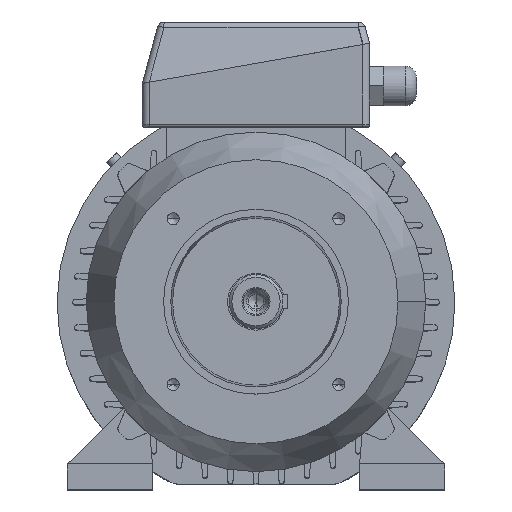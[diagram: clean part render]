
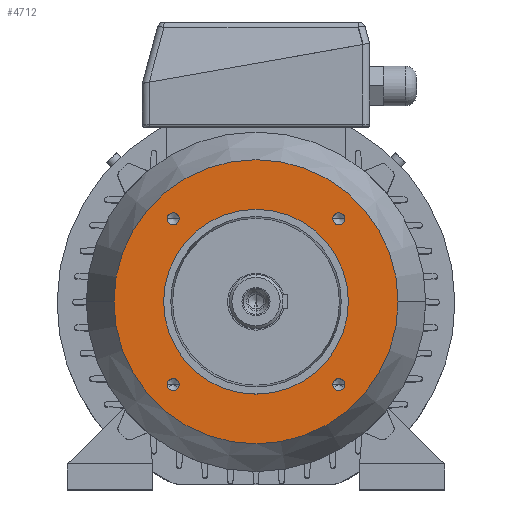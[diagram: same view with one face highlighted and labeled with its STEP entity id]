
A CAD part, top view. The second image highlights one B-rep face of the part: STEP entity #4712.
In plain terms, the highlighted planar face has unit normal (0, 0, 1).
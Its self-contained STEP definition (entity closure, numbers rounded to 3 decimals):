
#164 = VERTEX_POINT ( 'NONE', #10953 ) ;
#428 = EDGE_CURVE ( 'NONE', #1425, #164, #11161, .T. ) ;
#1425 = VERTEX_POINT ( 'NONE', #11643 ) ;
#1701 = CARTESIAN_POINT ( 'NONE',  ( -54.086, 58.336, 58. ) ) ;
#1873 = CIRCLE ( 'NONE', #1874, 4.25 ) ;
#1874 = AXIS2_PLACEMENT_3D ( 'NONE', #1875, #1876, #1877 ) ;
#1875 = CARTESIAN_POINT ( 'NONE',  ( -58.336, 58.336, 58. ) ) ;
#1876 = DIRECTION ( 'NONE',  ( 0., 0., 1. ) ) ;
#1877 = DIRECTION ( 'NONE',  ( 1., 0., 0. ) ) ;
#2156 = CARTESIAN_POINT ( 'NONE',  ( 65., 0., 58. ) ) ;
#2267 = CIRCLE ( 'NONE', #2268, 65. ) ;
#2268 = AXIS2_PLACEMENT_3D ( 'NONE', #2269, #2270, #2271 ) ;
#2269 = CARTESIAN_POINT ( 'NONE',  ( 0., 0., 58. ) ) ;
#2270 = DIRECTION ( 'NONE',  ( 0., 0., 1. ) ) ;
#2271 = DIRECTION ( 'NONE',  ( 1., 0., 0. ) ) ;
#2437 = CARTESIAN_POINT ( 'NONE',  ( 62.586, 58.336, 58. ) ) ;
#2476 = CIRCLE ( 'NONE', #2477, 65. ) ;
#2477 = AXIS2_PLACEMENT_3D ( 'NONE', #2478, #2479, #2485 ) ;
#2478 = CARTESIAN_POINT ( 'NONE',  ( 0., 0., 58. ) ) ;
#2479 = DIRECTION ( 'NONE',  ( 0., 0., 1. ) ) ;
#2485 = DIRECTION ( 'NONE',  ( 1., 0., 0. ) ) ;
#2554 = CIRCLE ( 'NONE', #2555, 4.25 ) ;
#2555 = AXIS2_PLACEMENT_3D ( 'NONE', #2556, #2557, #2558 ) ;
#2556 = CARTESIAN_POINT ( 'NONE',  ( 58.336, 58.336, 58. ) ) ;
#2557 = DIRECTION ( 'NONE',  ( 0., 0., 1. ) ) ;
#2558 = DIRECTION ( 'NONE',  ( 1., 0., 0. ) ) ;
#3655 = EDGE_CURVE ( 'NONE', #9502, #9878, #15085, .T. ) ;
#3809 = VERTEX_POINT ( 'NONE', #15152 ) ;
#3855 = ORIENTED_EDGE ( 'NONE', *, *, #3655, .F. ) ;
#4055 = VERTEX_POINT ( 'NONE', #15240 ) ;
#4080 = CARTESIAN_POINT ( 'NONE',  ( 54.086, 58.336, 58. ) ) ;
#4314 = EDGE_CURVE ( 'NONE', #4055, #3809, #15431, .T. ) ;
#4434 = EDGE_LOOP ( 'NONE', ( #3855, #10472 ) ) ;
#4712 = ADVANCED_FACE ( 'NONE', ( #16243, #16244, #16245, #16246, #16247, #16248 ), #16249, .F. ) ;
#4740 = CARTESIAN_POINT ( 'NONE',  ( 62.586, -58.336, 58. ) ) ;
#4741 = CIRCLE ( 'NONE', #4742, 100. ) ;
#4742 = AXIS2_PLACEMENT_3D ( 'NONE', #4743, #4744, #4745 ) ;
#4743 = CARTESIAN_POINT ( 'NONE',  ( 0., 0., 58. ) ) ;
#4744 = DIRECTION ( 'NONE',  ( 0., 0., 1. ) ) ;
#4745 = DIRECTION ( 'NONE',  ( 1., 0., 0. ) ) ;
#4872 = CIRCLE ( 'NONE', #4873, 4.25 ) ;
#4873 = AXIS2_PLACEMENT_3D ( 'NONE', #4874, #4875, #4876 ) ;
#4874 = CARTESIAN_POINT ( 'NONE',  ( 58.336, -58.336, 58. ) ) ;
#4875 = DIRECTION ( 'NONE',  ( 0., 0., 1. ) ) ;
#4876 = DIRECTION ( 'NONE',  ( 1., 0., 0. ) ) ;
#5330 = CARTESIAN_POINT ( 'NONE',  ( 54.086, -58.336, 58. ) ) ;
#6355 = CIRCLE ( 'NONE', #6356, 4.25 ) ;
#6356 = AXIS2_PLACEMENT_3D ( 'NONE', #6357, #6358, #6359 ) ;
#6357 = CARTESIAN_POINT ( 'NONE',  ( -58.336, 58.336, 58. ) ) ;
#6358 = DIRECTION ( 'NONE',  ( 0., 0., 1. ) ) ;
#6359 = DIRECTION ( 'NONE',  ( 1., 0., 0. ) ) ;
#7663 = CIRCLE ( 'NONE', #7664, 4.25 ) ;
#7664 = AXIS2_PLACEMENT_3D ( 'NONE', #7665, #7666, #7667 ) ;
#7665 = CARTESIAN_POINT ( 'NONE',  ( -58.336, -58.336, 58. ) ) ;
#7666 = DIRECTION ( 'NONE',  ( 0., 0., 1. ) ) ;
#7667 = DIRECTION ( 'NONE',  ( 1., 0., 0. ) ) ;
#8299 = VERTEX_POINT ( 'NONE', #1701 ) ;
#8556 = EDGE_CURVE ( 'NONE', #15778, #8299, #1873, .T. ) ;
#8693 = CIRCLE ( 'NONE', #8694, 4.25 ) ;
#8694 = AXIS2_PLACEMENT_3D ( 'NONE', #8695, #8696, #8697 ) ;
#8695 = CARTESIAN_POINT ( 'NONE',  ( 58.336, -58.336, 58. ) ) ;
#8696 = DIRECTION ( 'NONE',  ( 0., 0., 1. ) ) ;
#8697 = DIRECTION ( 'NONE',  ( 1., 0., 0. ) ) ;
#8867 = CARTESIAN_POINT ( 'NONE',  ( -65., 0., 58. ) ) ;
#8982 = VERTEX_POINT ( 'NONE', #2156 ) ;
#9234 = EDGE_CURVE ( 'NONE', #8982, #14918, #2267, .T. ) ;
#9286 = CARTESIAN_POINT ( 'NONE',  ( -62.586, 58.336, 58. ) ) ;
#9318 = EDGE_LOOP ( 'NONE', ( #14838, #13919 ) ) ;
#9502 = VERTEX_POINT ( 'NONE', #2437 ) ;
#9561 = EDGE_CURVE ( 'NONE', #14918, #8982, #2476, .T. ) ;
#9604 = EDGE_CURVE ( 'NONE', #9878, #9502, #2554, .T. ) ;
#9664 = ORIENTED_EDGE ( 'NONE', *, *, #9561, .F. ) ;
#9803 = ORIENTED_EDGE ( 'NONE', *, *, #9234, .F. ) ;
#9878 = VERTEX_POINT ( 'NONE', #4080 ) ;
#9936 = EDGE_LOOP ( 'NONE', ( #9803, #9664 ) ) ;
#10005 = ORIENTED_EDGE ( 'NONE', *, *, #4314, .T. ) ;
#10135 = VERTEX_POINT ( 'NONE', #4740 ) ;
#10136 = EDGE_CURVE ( 'NONE', #3809, #4055, #4741, .T. ) ;
#10192 = EDGE_CURVE ( 'NONE', #10424, #10135, #4872, .T. ) ;
#10228 = ORIENTED_EDGE ( 'NONE', *, *, #10136, .T. ) ;
#10413 = EDGE_LOOP ( 'NONE', ( #10228, #10005 ) ) ;
#10424 = VERTEX_POINT ( 'NONE', #5330 ) ;
#10472 = ORIENTED_EDGE ( 'NONE', *, *, #9604, .F. ) ;
#10735 = ORIENTED_EDGE ( 'NONE', *, *, #8556, .F. ) ;
#10866 = EDGE_CURVE ( 'NONE', #8299, #15778, #6355, .T. ) ;
#10953 = CARTESIAN_POINT ( 'NONE',  ( -54.086, -58.336, 58. ) ) ;
#11161 = CIRCLE ( 'NONE', #11162, 4.25 ) ;
#11162 = AXIS2_PLACEMENT_3D ( 'NONE', #11163, #11164, #11165 ) ;
#11163 = CARTESIAN_POINT ( 'NONE',  ( -58.336, -58.336, 58. ) ) ;
#11164 = DIRECTION ( 'NONE',  ( 0., 0., 1. ) ) ;
#11165 = DIRECTION ( 'NONE',  ( 1., 0., 0. ) ) ;
#11231 = ORIENTED_EDGE ( 'NONE', *, *, #10866, .F. ) ;
#11643 = CARTESIAN_POINT ( 'NONE',  ( -62.586, -58.336, 58. ) ) ;
#11814 = EDGE_LOOP ( 'NONE', ( #11231, #10735 ) ) ;
#12078 = ORIENTED_EDGE ( 'NONE', *, *, #428, .F. ) ;
#12651 = EDGE_CURVE ( 'NONE', #164, #1425, #7663, .T. ) ;
#13073 = ORIENTED_EDGE ( 'NONE', *, *, #12651, .F. ) ;
#13649 = EDGE_LOOP ( 'NONE', ( #13073, #12078 ) ) ;
#13919 = ORIENTED_EDGE ( 'NONE', *, *, #10192, .F. ) ;
#14504 = EDGE_CURVE ( 'NONE', #10135, #10424, #8693, .T. ) ;
#14838 = ORIENTED_EDGE ( 'NONE', *, *, #14504, .F. ) ;
#14918 = VERTEX_POINT ( 'NONE', #8867 ) ;
#15085 = CIRCLE ( 'NONE', #15086, 4.25 ) ;
#15086 = AXIS2_PLACEMENT_3D ( 'NONE', #15087, #15088, #15089 ) ;
#15087 = CARTESIAN_POINT ( 'NONE',  ( 58.336, 58.336, 58. ) ) ;
#15088 = DIRECTION ( 'NONE',  ( 0., 0., 1. ) ) ;
#15089 = DIRECTION ( 'NONE',  ( 1., 0., 0. ) ) ;
#15152 = CARTESIAN_POINT ( 'NONE',  ( -100., 0., 58. ) ) ;
#15240 = CARTESIAN_POINT ( 'NONE',  ( 100., 0., 58. ) ) ;
#15431 = CIRCLE ( 'NONE', #15432, 100. ) ;
#15432 = AXIS2_PLACEMENT_3D ( 'NONE', #15433, #15434, #15435 ) ;
#15433 = CARTESIAN_POINT ( 'NONE',  ( 0., 0., 58. ) ) ;
#15434 = DIRECTION ( 'NONE',  ( 0., 0., 1. ) ) ;
#15435 = DIRECTION ( 'NONE',  ( 1., 0., 0. ) ) ;
#15778 = VERTEX_POINT ( 'NONE', #9286 ) ;
#16243 = FACE_BOUND ( 'NONE', #4434, .T. ) ;
#16244 = FACE_OUTER_BOUND ( 'NONE', #10413, .T. ) ;
#16245 = FACE_BOUND ( 'NONE', #9936, .T. ) ;
#16246 = FACE_BOUND ( 'NONE', #9318, .T. ) ;
#16247 = FACE_BOUND ( 'NONE', #13649, .T. ) ;
#16248 = FACE_BOUND ( 'NONE', #11814, .T. ) ;
#16249 = PLANE ( 'NONE',  #16250 ) ;
#16250 = AXIS2_PLACEMENT_3D ( 'NONE', #16251, #16252, #16253 ) ;
#16251 = CARTESIAN_POINT ( 'NONE',  ( 0., 100., 58. ) ) ;
#16252 = DIRECTION ( 'NONE',  ( 0., 0., -1. ) ) ;
#16253 = DIRECTION ( 'NONE',  ( -1., 0., 0. ) ) ;
